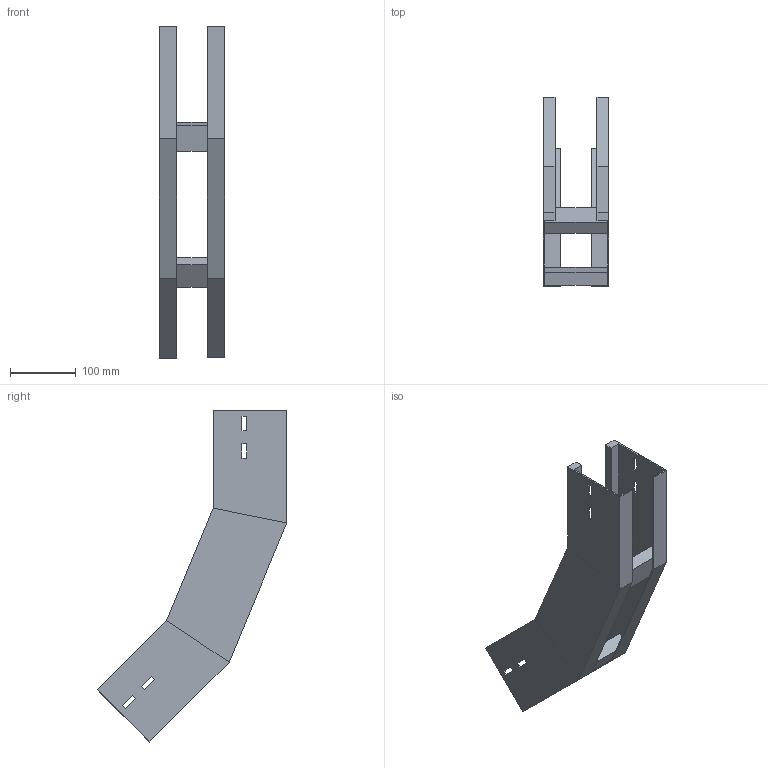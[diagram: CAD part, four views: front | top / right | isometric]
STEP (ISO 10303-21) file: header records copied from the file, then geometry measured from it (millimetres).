
FILE_DESCRIPTION (( 'STEP AP214' ), '1' );
FILE_NAME ('A2X31B3J100XX.step', '2025-03-20T10:06:15', ( '' ), ( '' ), 'SwSTEP 2.0', 'SolidWorks 2023', '' );
FILE_SCHEMA (( 'AUTOMOTIVE_DESIGN' ));
Length unit declared in the file: millimetre
Products named in the file (3): LONGH.SALITA_45°_H112.5_R300; TRAVERSINO_100; A2X31B3J100XX
Assembly tree (4 placements, depth 2):
  A2X31B3J100XX
    LONGH.SALITA_45°_H112.5_R300  x2
    TRAVERSINO_100  x2
Bounding box: 100 x 289.26 x 506.29 mm (x, y, z)
Volume: 636600.5 mm3; surface area: 357955.8 mm2
Topology: 4 solids, 4 shells, 96 faces, 232 edges, 144 vertices
Faces by surface type: plane 96
Entity records: 1472 total; most frequent: CARTESIAN_POINT 243, ORIENTED_EDGE 232, DIRECTION 226, VECTOR 116, LINE 116, EDGE_CURVE 116, VERTEX_POINT 72, EDGE_LOOP 56
